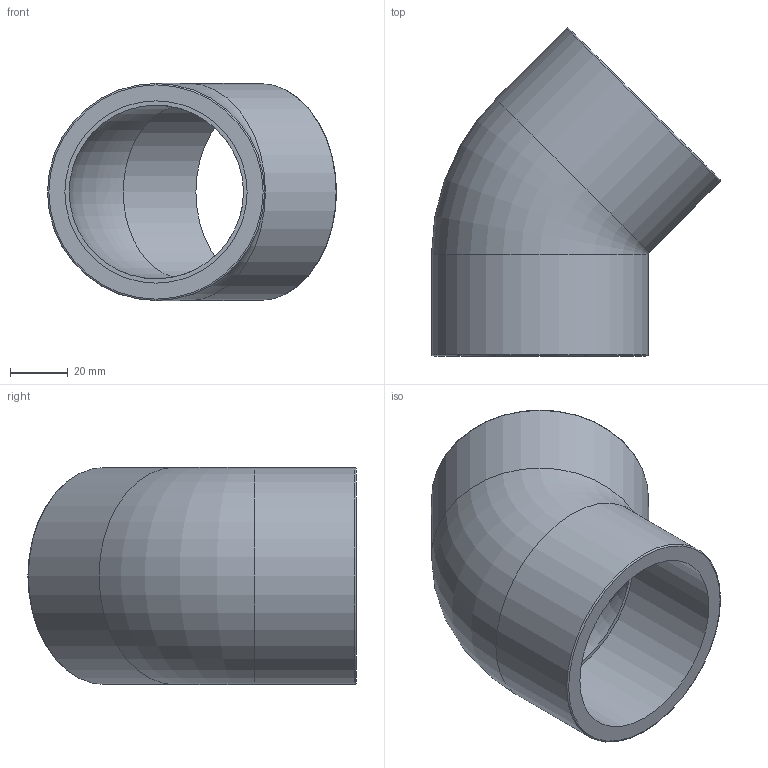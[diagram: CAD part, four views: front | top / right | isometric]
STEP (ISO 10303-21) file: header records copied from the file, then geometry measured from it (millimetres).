
FILE_DESCRIPTION(/* description */ ('PVC gomito a 45° incollaggio metrico'),/* implementation_level */ '2;1');
FILE_NAME(/* name */ 'C:\Users\POLYPIPE\Desktop\DATASET INVENTOR\LIBRERIA EFFAST\RACCORDI 3DxWEB\RDR\3D_RDRGYD\3D_RDRGYD0630.stp',/* time_stamp */ '2018-01-19T14:34:29+01:00',/* author */ ('POLYPIPE'),/* organization */ ('Polypipe Italia s.r.l.'),/* preprocessor_version */ 'ST-DEVELOPER v16.1',/* originating_system */ 'Autodesk Inventor 2016',/* authorisation */ '');
FILE_SCHEMA (('CONFIG_CONTROL_DESIGN'));
Length unit declared in the file: millimetre
Products named in the file (1): 3D_RDRGYD
Bounding box: 99.87 x 113.37 x 75 mm (x, y, z)
Volume: 138131.4 mm3; surface area: 46326.8 mm2
Topology: 1 solids, 1 shells, 12 faces, 20 edges, 12 vertices
Faces by surface type: torus 4, cylinder 4, plane 4
Full cylindrical faces by diameter (mm): 63 x2, 75 x2
Entity records: 396 total; most frequent: CARTESIAN_POINT 167, DIRECTION 46, EDGE_LOOP 24, ORIENTED_EDGE 24, AXIS2_PLACEMENT_3D 23, FACE_BOUND 12, FACE_OUTER_BOUND 12, VERTEX_POINT 12
